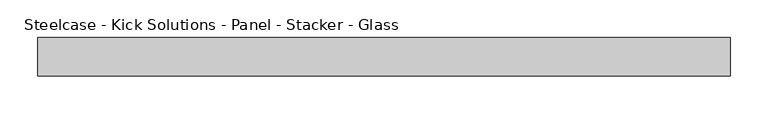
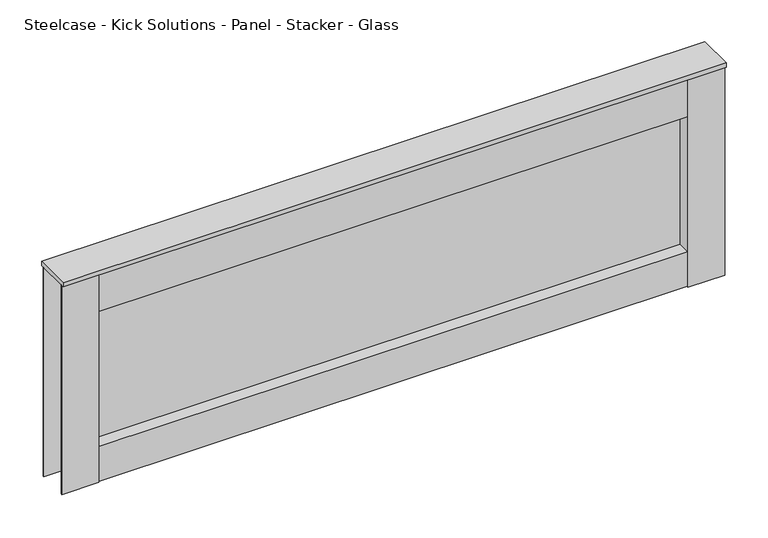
"""IFC4 building model written with IfcOpenShell, lengths in millimetres: furniture geometry, Steelcase - Kick Solutions - Panel - Stacker - Glass : 12H x 36W."""

from ifc_helpers import new_model, si_unit, frame, origin, place, context, project, spatial, polyline, outline, extrude, source, transform, mapped, element, save


def steelcase_kick_solutions_panel_stacker_glass_c3b9bcbf(model_context):
    return source(origin(), model_context, "Body", "SweptSolid", [
        extrude(outline(polyline([(863.6006661, -5.08), (863.6006661, -45.7200015), (50.8006646, -45.7200015), (50.8006646, -5.08), (863.6006661, -5.08)])), frame((0.0, 0.0, 1066.8), z_axis=(0.0, 0.0, 1.0), x_axis=(1.0, 0.0, 0.0)), (0.0, 0.0, 1.0), 50.6830951),
        extrude(outline(polyline([(863.6006661, -5.08), (863.6006661, -45.7200015), (50.8006646, -45.7200015), (50.8006646, -5.08), (863.6006661, -5.08)])), frame((0.0, 0.0, 1314.45), z_axis=(0.0, 0.0, 1.0), x_axis=(1.0, 0.0, 0.0)), (0.0, 0.0, 1.0), 57.15),
        extrude(outline(polyline([(50.8006646, -3.1743148), (50.8006646, -47.6243142), (0.0, -47.6243142), (0.0, -45.7200015), (47.7526646, -45.7200015), (47.7526646, -5.08), (0.0, -5.08), (0.0, -3.1743148), (50.8006646, -3.1743148)])), frame((0.0, 0.0, 1066.8), z_axis=(0.0, 0.0, 1.0), x_axis=(1.0, 0.0, 0.0)), (0.0, 0.0, 1.0), 304.8),
        extrude(outline(polyline([(863.6006661, -3.1743148), (914.4, -3.1743148), (914.4, -5.08), (866.6486661, -5.08), (866.6486661, -45.7200015), (914.4, -45.7200015), (914.4, -47.6243142), (863.6006661, -47.6243142), (863.6006661, -3.1743148)])), frame((0.0, 0.0, 1066.8), z_axis=(0.0, 0.0, 1.0), x_axis=(1.0, 0.0, 0.0)), (0.0, 0.0, 1.0), 304.8),
        extrude(outline(polyline([(863.6006661, -28.422537), (50.8006646, -28.422537), (50.8006646, -25.4), (863.6006661, -25.4), (863.6006661, -28.422537)])), frame((0.0, 0.0, 1117.4830951), z_axis=(0.0, 0.0, 1.0), x_axis=(1.0, 0.0, 0.0)), (0.0, 0.0, 1.0), 196.9669049),
        extrude(outline(polyline([(914.4, 0.0), (914.4, -50.8000015), (0.0, -50.8000015), (0.0, 0.0), (914.4, 0.0)])), frame((0.0, 0.0, 1371.6), z_axis=(0.0, 0.0, 1.0), x_axis=(1.0, 0.0, 0.0)), (0.0, 0.0, 1.0), 6.35),
    ])


if __name__ == "__main__":
    model = new_model("IFC4")
    model_context = context("Model", 3, world=origin())
    ifc_project = project(units=[si_unit("LENGTHUNIT", "METRE", prefix="MILLI")], contexts=[model_context])
    site = spatial("IfcSite", under=ifc_project)
    building = spatial("IfcBuilding", under=site)
    placement = place(None, origin())
    steelcase_kick_solutions_panel_stacker_glass_shape = steelcase_kick_solutions_panel_stacker_glass_c3b9bcbf(model_context)
    element("IfcFurniture", 1, ObjectType="Steelcase - Kick Solutions - Panel - Stacker - Glass : 12H x 36W", at=placement, inside=building, context=model_context, shape_type="MappedRepresentation", body=[
        mapped(steelcase_kick_solutions_panel_stacker_glass_shape, transform((0.0, 0.0, 0.0), x_axis=(1.0, 0.0, 0.0), y_axis=(0.0, 1.0, 0.0), z_axis=(0.0, 0.0, 1.0))),
    ])
    save(model, "model.ifc")
